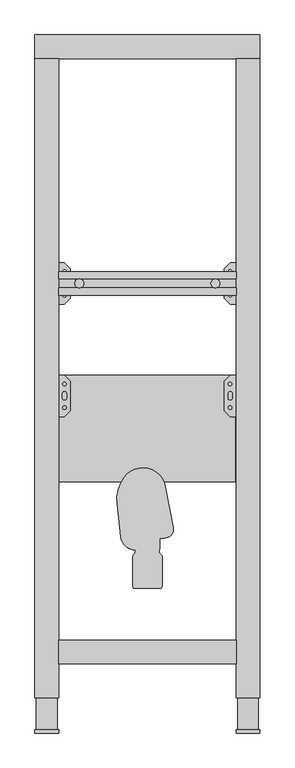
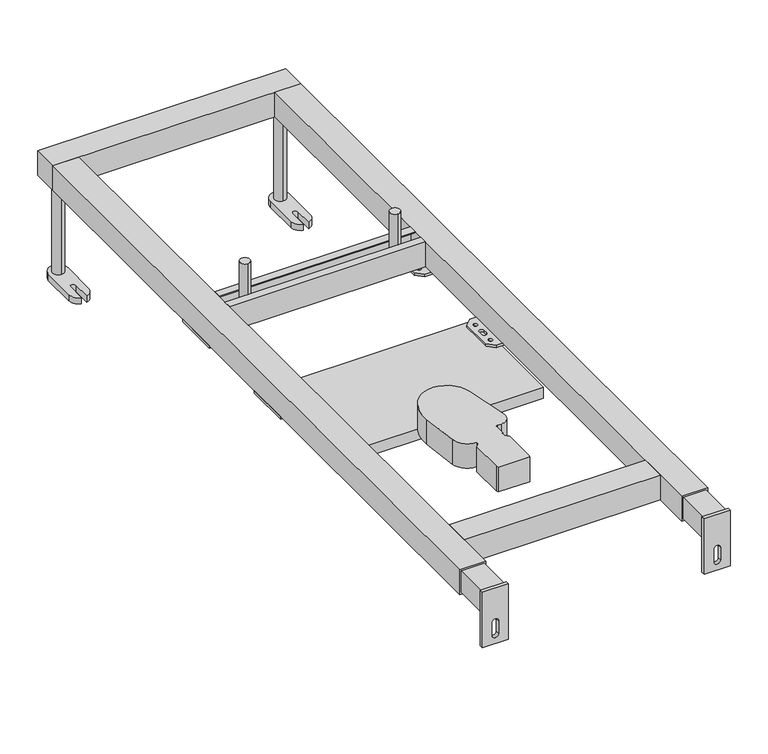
"""IFC4 building model written with IfcOpenShell, lengths in millimetres: sanitary terminal geometry, RSen_74_PF_FB_built-in element washbasin xs with built-in trap_wisa : xs washbasin with built-in trap_wisa_built in element for washbasin."""

from ifc_helpers import new_model, si_unit, point, frame, frame_2d, origin, origin_with_axes, place, context, project, spatial, polyline, circle_curve, trimmed, segment, composite_curve, outline, extrude, source, transform, mapped, element, save
from ifc_brep_helpers import plane_surface, cylinder_surface, revolved_surface, advanced_brep


def sanitary_terminal_46331c99(model_context):
    return source(origin(), model_context, "Body", "SolidModel", [
        advanced_brep(
        [(-51.1204839, 387.8541922, 196.0), (-44.8356818, 331.7119004, 196.0), (-19.9908595, 309.4931249, 196.0), (-19.9908595, 304.9931349, 196.0), (-24.9908666, 299.9931396, 196.0), (-24.9908666, 248.9931257, 196.0), (-23.9190708, 244.9931176, 196.0), (23.9373346, 244.9931176, 196.0), (25.0091304, 248.9931257, 196.0), (25.0091304, 299.9931396, 196.0), (20.009581, 304.9931349, 196.0), (20.009581, 310.2565563, 196.0), (21.0110227, 312.4934048, 196.0), (21.0110227, 327.4931134, 196.0), (23.0118562, 329.4931224, 196.0), (29.0091385, 329.4931224, 196.0), (43.7470321, 347.2849816, 196.0), (30.6975914, 416.3792309, 196.0), (-39.0812703, 432.4355441, 196.0), (-51.1204839, 387.8541922, 156.0), (-39.0812703, 432.4355441, 156.0), (30.6975914, 416.3792309, 156.0), (43.7470321, 347.2849816, 156.0), (29.0091375, 329.4931249, 156.0), (23.0118562, 329.4931224, 156.0), (21.0118537, 327.4931199, 156.0), (21.0110227, 312.4934048, 156.0), (20.009581, 310.2565563, 156.0), (20.009581, 304.9931349, 156.0), (25.0091304, 299.9931396, 156.0), (25.0091304, 248.9931257, 156.0), (23.9373346, 244.9931176, 156.0), (-23.9190708, 244.9931176, 156.0), (-24.9908666, 248.9931257, 156.0), (-24.9908666, 299.9931396, 156.0), (-19.9908595, 304.9931349, 156.0), (-19.9908595, 309.4931249, 156.0), (-44.8356726, 331.711891, 156.0)],
        [
            (0, 1),
            (1, 2, circle_curve(frame((-19.9908595, 334.4931249, 196.0), z_axis=(0.0, 0.0, 1.0), x_axis=(-1.0, 0.0, 0.0)), 25.0)),
            (2, 3),
            (3, 4),
            (4, 5),
            (5, 6),
            (6, 7),
            (7, 8),
            (8, 9),
            (9, 10),
            (10, 11),
            (11, 12, circle_curve(frame((18.012158, 312.4934048, 196.0), z_axis=(0.0, 0.0, 1.0), x_axis=(-1.0, 0.0, 0.0)), 2.9988647)),
            (12, 13),
            (13, 14, circle_curve(frame((23.0118562, 327.4931199, 196.0), z_axis=(0.0, 0.0, -1.0), x_axis=(-1.0, 0.0, 0.0)), 2.0000025)),
            (14, 15),
            (15, 16, circle_curve(frame((29.0091375, 344.4931249, 196.0), z_axis=(0.0, 0.0, 1.0), x_axis=(-1.0, 0.0, 0.0)), 15.0)),
            (16, 17),
            (17, 18, circle_curve(frame((-7.7081879, 409.1257482, 196.0), z_axis=(0.0, 0.0, 1.0), x_axis=(-1.0, 0.0, 0.0)), 39.0847399)),
            (18, 0, circle_curve(frame((11.4884459, 394.8628967, 196.0), z_axis=(0.0, 0.0, 1.0), x_axis=(-1.0, 0.0, 0.0)), 63.0000003)),
            (19, 20, circle_curve(frame((11.4884459, 394.8628967, 156.0), z_axis=(0.0, 0.0, -1.0), x_axis=(-1.0, 0.0, 0.0)), 63.0000003)),
            (20, 21, circle_curve(frame((-7.7081879, 409.1257482, 156.0), z_axis=(0.0, 0.0, -1.0), x_axis=(-1.0, 0.0, 0.0)), 39.0847399)),
            (21, 22),
            (22, 23, circle_curve(frame((29.0091375, 344.4931249, 156.0), z_axis=(0.0, 0.0, -1.0), x_axis=(-1.0, 0.0, 0.0)), 15.0)),
            (23, 24),
            (24, 25, circle_curve(frame((23.0118562, 327.4931199, 156.0), z_axis=(0.0, 0.0, 1.0), x_axis=(-1.0, 0.0, 0.0)), 2.0000025)),
            (25, 26),
            (26, 27, circle_curve(frame((18.012158, 312.4934048, 156.0), z_axis=(0.0, 0.0, -1.0), x_axis=(-1.0, 0.0, 0.0)), 2.9988647)),
            (27, 28),
            (28, 29),
            (29, 30),
            (30, 31),
            (31, 32),
            (32, 33),
            (33, 34),
            (34, 35),
            (35, 36),
            (36, 37, circle_curve(frame((-19.9908595, 334.4931249, 156.0), z_axis=(0.0, 0.0, -1.0), x_axis=(-1.0, 0.0, 0.0)), 25.0)),
            (37, 19),
            (0, 19),
            (37, 1),
            (36, 2),
            (35, 3),
            (34, 4),
            (33, 5),
            (32, 6),
            (31, 7),
            (30, 8),
            (29, 9),
            (28, 10),
            (27, 11),
            (26, 12),
            (25, 13),
            (24, 14),
            (23, 15),
            (22, 16),
            (21, 17),
            (20, 18),
        ],
        [
            plane_surface(frame((-51.1204839, 387.8541922, 196.0), z_axis=(0.0, 0.0, 1.0), x_axis=(0.11124927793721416, -0.9937925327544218, 0.0))),
            plane_surface(frame((-51.1204839, 387.8541922, 156.0), z_axis=(0.0, 0.0, -1.0), x_axis=(-0.11124927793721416, 0.9937925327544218, 0.0))),
            plane_surface(frame((-51.1204839, 387.8541922, 196.0), z_axis=(-0.9937925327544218, -0.11124927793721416, 0.0), x_axis=(0.0, 0.0, -1.0))),
            cylinder_surface(frame((-19.9908595, 334.4931249, 156.0), z_axis=(0.0, 0.0, 1.0), x_axis=(-1.0, 0.0, 0.0)), 25.0),
            plane_surface(frame((-19.9908595, 309.4931249, 196.0), z_axis=(-1.0, 0.0, 0.0), x_axis=(0.0, 0.0, -1.0))),
            plane_surface(frame((-19.9908595, 304.9931349, 196.0), z_axis=(-0.7071059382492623, 0.707107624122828, 0.0), x_axis=(0.0, 0.0, -1.0))),
            plane_surface(frame((-24.9908666, 299.9931396, 196.0), z_axis=(-1.0, 0.0, 0.0), x_axis=(0.0, 0.0, -1.0))),
            plane_surface(frame((-24.9908666, 248.9931257, 196.0), z_axis=(-0.9659260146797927, -0.2588183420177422, 0.0), x_axis=(0.0, 0.0, -1.0))),
            plane_surface(frame((-23.9190708, 244.9931176, 196.0), z_axis=(0.0, -1.0, 0.0), x_axis=(0.0, 0.0, -1.0))),
            plane_surface(frame((23.9373346, 244.9931176, 196.0), z_axis=(0.9659260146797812, -0.2588183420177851, 0.0), x_axis=(0.0, 0.0, -1.0))),
            plane_surface(frame((25.0091304, 248.9931257, 196.0), z_axis=(1.0, 0.0, 0.0), x_axis=(0.0, 0.0, -1.0))),
            plane_surface(frame((25.0091304, 299.9931396, 196.0), z_axis=(0.7071383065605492, 0.7070752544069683, 0.0), x_axis=(0.0, 0.0, -1.0))),
            plane_surface(frame((20.009581, 304.9931349, 196.0), z_axis=(1.0, 0.0, 0.0), x_axis=(0.0, 0.0, -1.0))),
            cylinder_surface(frame((18.012158, 312.4934048, 156.0), z_axis=(0.0, 0.0, 1.0), x_axis=(-1.0, 0.0, 0.0)), 2.9988647),
            plane_surface(frame((21.0110227, 312.4934048, 196.0), z_axis=(1.0, 0.0, 0.0), x_axis=(0.0, 0.0, -1.0))),
            revolved_surface(polyline([(21.0118537, 327.4931199, 156.0), (21.0118537, 327.4931199, 196.0)]), (23.0118562, 327.4931199, 156.0), (0.0, 0.0, -1.0)),
            plane_surface(frame((23.0118562, 329.4931224, 196.0), z_axis=(0.0, -1.0, 0.0), x_axis=(0.0, 0.0, -1.0))),
            cylinder_surface(frame((29.0091375, 344.4931249, 156.0), z_axis=(0.0, 0.0, 1.0), x_axis=(-1.0, 0.0, 0.0)), 15.0),
            plane_surface(frame((43.7470321, 347.2849816, 196.0), z_axis=(0.9826284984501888, 0.18558349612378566, 0.0), x_axis=(0.0, 0.0, -1.0))),
            cylinder_surface(frame((-7.7081879, 409.1257482, 156.0), z_axis=(0.0, 0.0, 1.0), x_axis=(-1.0, 0.0, 0.0)), 39.0847399),
            cylinder_surface(frame((11.4884459, 394.8628967, 156.0), z_axis=(0.0, 0.0, 1.0), x_axis=(-1.0, 0.0, 0.0)), 63.0000003),
        ],
        [
            (0, [[1, 2, 3, 4, 5, 6, 7, 8, 9, 10, 11, 12, 13, 14, 15, 16, 17, 18, 19]]),
            (1, [[20, 21, 22, 23, 24, 25, 26, 27, 28, 29, 30, 31, 32, 33, 34, 35, 36, 37, 38]]),
            (2, [[-1, 39, -38, 40]]),
            (3, [[-2, -40, -37, 41]]),
            (4, [[-3, -41, -36, 42]]),
            (5, [[-4, -42, -35, 43]]),
            (6, [[-5, -43, -34, 44]]),
            (7, [[-6, -44, -33, 45]]),
            (8, [[-7, -45, -32, 46]]),
            (9, [[-8, -46, -31, 47]]),
            (10, [[-9, -47, -30, 48]]),
            (11, [[-10, -48, -29, 49]]),
            (12, [[-11, -49, -28, 50]]),
            (13, [[-12, -50, -27, 51]]),
            (14, [[-13, -51, -26, 52]]),
            (15, [[-14, -52, -25, 53]]),
            (16, [[-15, -53, -24, 54]]),
            (17, [[-16, -54, -23, 55]]),
            (18, [[-17, -55, -22, 56]]),
            (19, [[-18, -56, -21, 57]]),
            (20, [[-19, -57, -20, -39]]),
        ],
    ),
        extrude(outline(polyline([(-149.0, 605.0), (149.0, 605.0), (149.0, 425.0), (-149.0, 425.0), (-149.0, 605.0)])), frame((0.0, 0.0, 138.0), z_axis=(0.0, 0.0, 1.0), x_axis=(1.0, 0.0, 0.0)), (0.0, 0.0, 1.0), 18.0),
        extrude(outline(composite_curve([segment(trimmed(circle_curve(frame_2d((-115.0, 760.0)), 7.5154833), [point((-115.0, 767.5154833))], [point((-115.0, 752.4845167))], False, "CARTESIAN"), True, "CONTINUOUS"), segment(trimmed(circle_curve(frame_2d((-115.0, 760.0)), 7.5154833), [point((-115.0, 752.4845167))], [point((-115.0, 767.5154833))], False, "CARTESIAN"), True, "CONTINUOUS")], self_intersect=False)), frame((0.0, 0.0, 180.0), z_axis=(0.0, 0.0, 1.0), x_axis=(1.0, 0.0, 0.0)), (0.0, 0.0, 1.0), 70.0),
        extrude(outline(composite_curve([segment(trimmed(circle_curve(frame_2d((115.0, 760.0)), 7.5154833), [point((115.0, 767.5154833))], [point((115.0, 752.4845167))], False, "CARTESIAN"), True, "CONTINUOUS"), segment(trimmed(circle_curve(frame_2d((115.0, 760.0)), 7.5154833), [point((115.0, 752.4845167))], [point((115.0, 767.5154833))], False, "CARTESIAN"), True, "CONTINUOUS")], self_intersect=False)), frame((0.0, 0.0, 180.0), z_axis=(0.0, 0.0, 1.0), x_axis=(1.0, 0.0, 0.0)), (0.0, 0.0, 1.0), 70.0),
        extrude(outline(polyline([(740.0, 200.0), (752.4845167, 200.0), (752.4845167, 198.5), (741.5, 198.5), (741.5, 161.5), (778.5, 161.5), (778.5, 198.5), (767.5154833, 198.5), (767.5154833, 200.0), (780.0, 200.0), (780.0, 160.0), (740.0, 160.0), (740.0, 200.0)])), frame((-150.0, 0.0, 0.0), z_axis=(1.0, 0.0, 0.0), x_axis=(0.0, 1.0, 0.0)), (0.0, 0.0, 1.0), 300.0),
        extrude(outline(polyline([(140.0, 725.0), (130.0, 735.0), (130.0, 785.0), (140.0, 795.0), (190.0, 795.0), (190.0, 725.0), (140.0, 725.0)]), holes=[composite_curve([segment(trimmed(circle_curve(frame_2d((175.0, 760.0)), 4.5), [point((175.0, 755.5))], [point((175.0, 764.5))], True, "CARTESIAN"), True, "CONTINUOUS"), segment(trimmed(circle_curve(frame_2d((175.0, 760.0)), 4.5), [point((175.0, 764.5))], [point((175.0, 755.5))], True, "CARTESIAN"), True, "CONTINUOUS")], self_intersect=False), composite_curve([segment(trimmed(circle_curve(frame_2d((175.0, 780.0)), 4.5), [point((175.0, 775.5))], [point((175.0, 784.5))], True, "CARTESIAN"), True, "CONTINUOUS"), segment(trimmed(circle_curve(frame_2d((175.0, 780.0)), 4.5), [point((175.0, 784.5))], [point((175.0, 775.5))], True, "CARTESIAN"), True, "CONTINUOUS")], self_intersect=False), composite_curve([segment(trimmed(circle_curve(frame_2d((175.0, 740.0)), 4.5), [point((175.0, 735.5))], [point((175.0, 744.5))], True, "CARTESIAN"), True, "CONTINUOUS"), segment(trimmed(circle_curve(frame_2d((175.0, 740.0)), 4.5), [point((175.0, 744.5))], [point((175.0, 735.5))], True, "CARTESIAN"), True, "CONTINUOUS")], self_intersect=False), composite_curve([segment(trimmed(circle_curve(frame_2d((140.0, 780.0)), 2.9795218), [point((140.0, 777.0204782))], [point((140.0, 782.9795218))], True, "CARTESIAN"), True, "CONTINUOUS"), segment(trimmed(circle_curve(frame_2d((140.0, 780.0)), 2.9795218), [point((140.0, 782.9795218))], [point((140.0, 777.0204782))], True, "CARTESIAN"), True, "CONTINUOUS")], self_intersect=False), composite_curve([segment(trimmed(circle_curve(frame_2d((140.0, 740.0)), 2.9795218), [point((140.0, 737.0204782))], [point((140.0, 742.9795218))], True, "CARTESIAN"), True, "CONTINUOUS"), segment(trimmed(circle_curve(frame_2d((140.0, 740.0)), 2.9795218), [point((140.0, 742.9795218))], [point((140.0, 737.0204782))], True, "CARTESIAN"), True, "CONTINUOUS")], self_intersect=False), composite_curve([segment(trimmed(circle_curve(frame_2d((140.0, 763.5)), 3.5), [point((143.5, 763.5))], [point((136.5, 763.5))], True, "CARTESIAN"), True, "CONTINUOUS"), segment(polyline([(136.5, 763.5), (136.5, 756.5)]), True, "CONTINUOUS"), segment(trimmed(circle_curve(frame_2d((140.0, 756.5)), 3.5), [point((136.5, 756.5))], [point((143.5, 756.5))], True, "CARTESIAN"), True, "CONTINUOUS"), segment(polyline([(143.5, 756.5), (143.5, 763.5)]), True, "CONTINUOUS")], self_intersect=False)]), frame((0.0, 0.0, 156.0), z_axis=(0.0, 0.0, 1.0), x_axis=(1.0, 0.0, 0.0)), (0.0, 0.0, 1.0), 4.0),
        extrude(outline(polyline([(-140.0, 725.0), (-190.0, 725.0), (-190.0, 795.0), (-140.0, 795.0), (-130.0, 785.0), (-130.0, 735.0), (-140.0, 725.0)]), holes=[composite_curve([segment(trimmed(circle_curve(frame_2d((-175.0, 760.0)), 4.5), [point((-175.0, 755.5))], [point((-175.0, 764.5))], True, "CARTESIAN"), True, "CONTINUOUS"), segment(trimmed(circle_curve(frame_2d((-175.0, 760.0)), 4.5), [point((-175.0, 764.5))], [point((-175.0, 755.5))], True, "CARTESIAN"), True, "CONTINUOUS")], self_intersect=False), composite_curve([segment(trimmed(circle_curve(frame_2d((-175.0, 780.0)), 4.5), [point((-175.0, 775.5))], [point((-175.0, 784.5))], True, "CARTESIAN"), True, "CONTINUOUS"), segment(trimmed(circle_curve(frame_2d((-175.0, 780.0)), 4.5), [point((-175.0, 784.5))], [point((-175.0, 775.5))], True, "CARTESIAN"), True, "CONTINUOUS")], self_intersect=False), composite_curve([segment(trimmed(circle_curve(frame_2d((-175.0, 740.0)), 4.5), [point((-175.0, 735.5))], [point((-175.0, 744.5))], True, "CARTESIAN"), True, "CONTINUOUS"), segment(trimmed(circle_curve(frame_2d((-175.0, 740.0)), 4.5), [point((-175.0, 744.5))], [point((-175.0, 735.5))], True, "CARTESIAN"), True, "CONTINUOUS")], self_intersect=False), composite_curve([segment(trimmed(circle_curve(frame_2d((-140.0, 780.0)), 2.9795218), [point((-140.0, 777.0204782))], [point((-140.0, 782.9795218))], True, "CARTESIAN"), True, "CONTINUOUS"), segment(trimmed(circle_curve(frame_2d((-140.0, 780.0)), 2.9795218), [point((-140.0, 782.9795218))], [point((-140.0, 777.0204782))], True, "CARTESIAN"), True, "CONTINUOUS")], self_intersect=False), composite_curve([segment(trimmed(circle_curve(frame_2d((-140.0, 740.0)), 2.9795218), [point((-140.0, 737.0204782))], [point((-140.0, 742.9795218))], True, "CARTESIAN"), True, "CONTINUOUS"), segment(trimmed(circle_curve(frame_2d((-140.0, 740.0)), 2.9795218), [point((-140.0, 742.9795218))], [point((-140.0, 737.0204782))], True, "CARTESIAN"), True, "CONTINUOUS")], self_intersect=False), composite_curve([segment(polyline([(-143.5, 763.5), (-143.5, 756.5)]), True, "CONTINUOUS"), segment(trimmed(circle_curve(frame_2d((-140.0, 756.5)), 3.5), [point((-143.5, 756.5))], [point((-136.5, 756.5))], True, "CARTESIAN"), True, "CONTINUOUS"), segment(polyline([(-136.5, 756.5), (-136.5, 763.5)]), True, "CONTINUOUS"), segment(trimmed(circle_curve(frame_2d((-140.0, 763.5)), 3.5), [point((-136.5, 763.5))], [point((-143.5, 763.5))], True, "CARTESIAN"), True, "CONTINUOUS")], self_intersect=False)]), frame((0.0, 0.0, 156.0), z_axis=(0.0, 0.0, 1.0), x_axis=(1.0, 0.0, 0.0)), (0.0, 0.0, 1.0), 4.0),
        extrude(outline(polyline([(140.0, 535.0), (130.0, 545.0), (130.0, 595.0), (140.0, 605.0), (190.0, 605.0), (190.0, 535.0), (140.0, 535.0)]), holes=[composite_curve([segment(trimmed(circle_curve(frame_2d((175.0, 570.0)), 4.5), [point((175.0, 565.5))], [point((175.0, 574.5))], True, "CARTESIAN"), True, "CONTINUOUS"), segment(trimmed(circle_curve(frame_2d((175.0, 570.0)), 4.5), [point((175.0, 574.5))], [point((175.0, 565.5))], True, "CARTESIAN"), True, "CONTINUOUS")], self_intersect=False), composite_curve([segment(trimmed(circle_curve(frame_2d((175.0, 590.0)), 4.5), [point((175.0, 585.5))], [point((175.0, 594.5))], True, "CARTESIAN"), True, "CONTINUOUS"), segment(trimmed(circle_curve(frame_2d((175.0, 590.0)), 4.5), [point((175.0, 594.5))], [point((175.0, 585.5))], True, "CARTESIAN"), True, "CONTINUOUS")], self_intersect=False), composite_curve([segment(trimmed(circle_curve(frame_2d((175.0, 550.0)), 4.5), [point((175.0, 545.5))], [point((175.0, 554.5))], True, "CARTESIAN"), True, "CONTINUOUS"), segment(trimmed(circle_curve(frame_2d((175.0, 550.0)), 4.5), [point((175.0, 554.5))], [point((175.0, 545.5))], True, "CARTESIAN"), True, "CONTINUOUS")], self_intersect=False), composite_curve([segment(trimmed(circle_curve(frame_2d((140.0, 590.0)), 2.9795218), [point((140.0, 587.0204782))], [point((140.0, 592.9795218))], True, "CARTESIAN"), True, "CONTINUOUS"), segment(trimmed(circle_curve(frame_2d((140.0, 590.0)), 2.9795218), [point((140.0, 592.9795218))], [point((140.0, 587.0204782))], True, "CARTESIAN"), True, "CONTINUOUS")], self_intersect=False), composite_curve([segment(trimmed(circle_curve(frame_2d((140.0, 550.0)), 2.9795218), [point((140.0, 547.0204782))], [point((140.0, 552.9795218))], True, "CARTESIAN"), True, "CONTINUOUS"), segment(trimmed(circle_curve(frame_2d((140.0, 550.0)), 2.9795218), [point((140.0, 552.9795218))], [point((140.0, 547.0204782))], True, "CARTESIAN"), True, "CONTINUOUS")], self_intersect=False), composite_curve([segment(trimmed(circle_curve(frame_2d((140.0, 573.5)), 3.5), [point((143.5, 573.5))], [point((136.5, 573.5))], True, "CARTESIAN"), True, "CONTINUOUS"), segment(polyline([(136.5, 573.5), (136.5, 566.5)]), True, "CONTINUOUS"), segment(trimmed(circle_curve(frame_2d((140.0, 566.5)), 3.5), [point((136.5, 566.5))], [point((143.5, 566.5))], True, "CARTESIAN"), True, "CONTINUOUS"), segment(polyline([(143.5, 566.5), (143.5, 573.5)]), True, "CONTINUOUS")], self_intersect=False)]), frame((0.0, 0.0, 156.0), z_axis=(0.0, 0.0, 1.0), x_axis=(1.0, 0.0, 0.0)), (0.0, 0.0, 1.0), 4.0),
        extrude(outline(polyline([(-140.0, 535.0), (-190.0, 535.0), (-190.0, 605.0), (-140.0, 605.0), (-130.0, 595.0), (-130.0, 545.0), (-140.0, 535.0)]), holes=[composite_curve([segment(trimmed(circle_curve(frame_2d((-175.0, 570.0)), 4.5), [point((-175.0, 565.5))], [point((-175.0, 574.5))], True, "CARTESIAN"), True, "CONTINUOUS"), segment(trimmed(circle_curve(frame_2d((-175.0, 570.0)), 4.5), [point((-175.0, 574.5))], [point((-175.0, 565.5))], True, "CARTESIAN"), True, "CONTINUOUS")], self_intersect=False), composite_curve([segment(trimmed(circle_curve(frame_2d((-175.0, 590.0)), 4.5), [point((-175.0, 585.5))], [point((-175.0, 594.5))], True, "CARTESIAN"), True, "CONTINUOUS"), segment(trimmed(circle_curve(frame_2d((-175.0, 590.0)), 4.5), [point((-175.0, 594.5))], [point((-175.0, 585.5))], True, "CARTESIAN"), True, "CONTINUOUS")], self_intersect=False), composite_curve([segment(trimmed(circle_curve(frame_2d((-175.0, 550.0)), 4.5), [point((-175.0, 545.5))], [point((-175.0, 554.5))], True, "CARTESIAN"), True, "CONTINUOUS"), segment(trimmed(circle_curve(frame_2d((-175.0, 550.0)), 4.5), [point((-175.0, 554.5))], [point((-175.0, 545.5))], True, "CARTESIAN"), True, "CONTINUOUS")], self_intersect=False), composite_curve([segment(trimmed(circle_curve(frame_2d((-140.0, 590.0)), 2.9795218), [point((-140.0, 587.0204782))], [point((-140.0, 592.9795218))], True, "CARTESIAN"), True, "CONTINUOUS"), segment(trimmed(circle_curve(frame_2d((-140.0, 590.0)), 2.9795218), [point((-140.0, 592.9795218))], [point((-140.0, 587.0204782))], True, "CARTESIAN"), True, "CONTINUOUS")], self_intersect=False), composite_curve([segment(trimmed(circle_curve(frame_2d((-140.0, 550.0)), 2.9795218), [point((-140.0, 547.0204782))], [point((-140.0, 552.9795218))], True, "CARTESIAN"), True, "CONTINUOUS"), segment(trimmed(circle_curve(frame_2d((-140.0, 550.0)), 2.9795218), [point((-140.0, 552.9795218))], [point((-140.0, 547.0204782))], True, "CARTESIAN"), True, "CONTINUOUS")], self_intersect=False), composite_curve([segment(polyline([(-143.5, 573.5), (-143.5, 566.5)]), True, "CONTINUOUS"), segment(trimmed(circle_curve(frame_2d((-140.0, 566.5)), 3.5), [point((-143.5, 566.5))], [point((-136.5, 566.5))], True, "CARTESIAN"), True, "CONTINUOUS"), segment(polyline([(-136.5, 566.5), (-136.5, 573.5)]), True, "CONTINUOUS"), segment(trimmed(circle_curve(frame_2d((-140.0, 573.5)), 3.5), [point((-136.5, 573.5))], [point((-143.5, 573.5))], True, "CARTESIAN"), True, "CONTINUOUS")], self_intersect=False)]), frame((0.0, 0.0, 156.0), z_axis=(0.0, 0.0, 1.0), x_axis=(1.0, 0.0, 0.0)), (0.0, 0.0, 1.0), 4.0),
        extrude(outline(composite_curve([segment(trimmed(circle_curve(frame_2d((-170.0, 1160.0)), 8.75), [point((-170.0, 1151.25))], [point((-170.0, 1168.75))], False, "CARTESIAN"), True, "CONTINUOUS"), segment(trimmed(circle_curve(frame_2d((-170.0, 1160.0)), 8.75), [point((-170.0, 1168.75))], [point((-170.0, 1151.25))], False, "CARTESIAN"), True, "CONTINUOUS")], self_intersect=False)), frame((0.0, 0.0, 10.0), z_axis=(0.0, 0.0, 1.0), x_axis=(1.0, 0.0, 0.0)), (0.0, 0.0, 1.0), 150.0),
        extrude(outline(composite_curve([segment(trimmed(circle_curve(frame_2d((170.0, 1160.0)), 8.75), [point((170.0, 1151.25))], [point((170.0, 1168.75))], False, "CARTESIAN"), True, "CONTINUOUS"), segment(trimmed(circle_curve(frame_2d((170.0, 1160.0)), 8.75), [point((170.0, 1168.75))], [point((170.0, 1151.25))], False, "CARTESIAN"), True, "CONTINUOUS")], self_intersect=False)), frame((0.0, 0.0, 10.0), z_axis=(0.0, 0.0, 1.0), x_axis=(1.0, 0.0, 0.0)), (0.0, 0.0, 1.0), 150.0),
        extrude(outline(composite_curve([segment(trimmed(circle_curve(frame_2d((-170.0, 1160.0)), 15.0), [point((-185.0, 1160.0))], [point((-155.0, 1160.0))], False, "CARTESIAN"), True, "CONTINUOUS"), segment(polyline([(-155.0, 1160.0), (-155.0, 1106.0)]), True, "CONTINUOUS"), segment(trimmed(circle_curve(frame_2d((-170.0, 1106.0)), 15.0), [point((-155.0, 1106.0))], [point((-166.0, 1091.5431677))], False, "CARTESIAN"), True, "CONTINUOUS"), segment(polyline([(-166.0, 1091.5431677), (-166.0, 1120.4568323)]), True, "CONTINUOUS"), segment(trimmed(circle_curve(frame_2d((-170.0, 1120.4568323)), 4.0), [point((-166.0, 1120.4568323))], [point((-174.0, 1120.4568323))], True, "CARTESIAN"), True, "CONTINUOUS"), segment(polyline([(-174.0, 1120.4568323), (-174.0, 1091.5431677)]), True, "CONTINUOUS"), segment(trimmed(circle_curve(frame_2d((-170.0, 1106.0)), 15.0), [point((-174.0, 1091.5431677))], [point((-185.0, 1106.0))], False, "CARTESIAN"), True, "CONTINUOUS"), segment(polyline([(-185.0, 1106.0), (-185.0, 1160.0)]), True, "CONTINUOUS")], self_intersect=False)), origin_with_axes(), (0.0, 0.0, 1.0), 10.0),
        extrude(outline(composite_curve([segment(polyline([(185.0, 1160.0), (185.0, 1106.0)]), True, "CONTINUOUS"), segment(trimmed(circle_curve(frame_2d((170.0, 1106.0)), 15.0), [point((185.0, 1106.0))], [point((174.0, 1091.5431677))], False, "CARTESIAN"), True, "CONTINUOUS"), segment(polyline([(174.0, 1091.5431677), (174.0, 1120.4568323)]), True, "CONTINUOUS"), segment(trimmed(circle_curve(frame_2d((170.0, 1120.4568323)), 4.0), [point((174.0, 1120.4568323))], [point((166.0, 1120.4568323))], True, "CARTESIAN"), True, "CONTINUOUS"), segment(polyline([(166.0, 1120.4568323), (166.0, 1091.5431677)]), True, "CONTINUOUS"), segment(trimmed(circle_curve(frame_2d((170.0, 1106.0)), 15.0), [point((166.0, 1091.5431677))], [point((155.0, 1106.0))], False, "CARTESIAN"), True, "CONTINUOUS"), segment(polyline([(155.0, 1106.0), (155.0, 1160.0)]), True, "CONTINUOUS"), segment(trimmed(circle_curve(frame_2d((170.0, 1160.0)), 15.0), [point((155.0, 1160.0))], [point((185.0, 1160.0))], False, "CARTESIAN"), True, "CONTINUOUS")], self_intersect=False)), origin_with_axes(), (0.0, 0.0, 1.0), 10.0),
        extrude(outline(polyline([(-187.5, 549.0), (-152.5, 549.0), (-152.5, 6.0), (-187.5, 6.0), (-187.5, 549.0)])), frame((0.0, 0.0, 162.5), z_axis=(0.0, 0.0, 1.0), x_axis=(1.0, 0.0, 0.0)), (0.0, 0.0, 1.0), 35.0),
        extrude(outline(polyline([(152.4841074, 549.0), (187.4841074, 549.0), (187.4841074, 6.0), (152.4841074, 6.0), (152.4841074, 549.0)])), frame((0.0, 0.0, 162.5), z_axis=(0.0, 0.0, 1.0), x_axis=(1.0, 0.0, 0.0)), (0.0, 0.0, 1.0), 35.0),
        extrude(outline(polyline([(200.0, 190.0), (200.0, 150.0), (110.0, 150.0), (110.0, 190.0), (200.0, 190.0)]), holes=[composite_curve([segment(trimmed(circle_curve(frame_2d((145.0, 170.0)), 5.0), [point((145.0, 165.0))], [point((145.0, 175.0))], True, "CARTESIAN"), True, "CONTINUOUS"), segment(polyline([(145.0, 175.0), (125.0, 175.0)]), True, "CONTINUOUS"), segment(trimmed(circle_curve(frame_2d((125.0, 170.0)), 5.0), [point((125.0, 175.0))], [point((125.0, 165.0))], True, "CARTESIAN"), True, "CONTINUOUS"), segment(polyline([(125.0, 165.0), (145.0, 165.0)]), True, "CONTINUOUS")], self_intersect=False)]), frame((0.0, 0.0, 0.0), z_axis=(0.0, 1.0, 0.0), x_axis=(0.0, 0.0, 1.0)), (0.0, 0.0, 1.0), 6.0),
        extrude(outline(polyline([(200.0, -150.0), (200.0, -190.0), (110.0, -190.0), (110.0, -150.0), (200.0, -150.0)]), holes=[composite_curve([segment(trimmed(circle_curve(frame_2d((145.0, -170.0)), 5.0), [point((145.0, -175.0))], [point((145.0, -165.0))], True, "CARTESIAN"), True, "CONTINUOUS"), segment(polyline([(145.0, -165.0), (125.0, -165.0)]), True, "CONTINUOUS"), segment(trimmed(circle_curve(frame_2d((125.0, -170.0)), 5.0), [point((125.0, -165.0))], [point((125.0, -175.0))], True, "CARTESIAN"), True, "CONTINUOUS"), segment(polyline([(125.0, -175.0), (145.0, -175.0)]), True, "CONTINUOUS")], self_intersect=False)]), frame((0.0, 0.0, 0.0), z_axis=(0.0, 1.0, 0.0), x_axis=(0.0, 0.0, 1.0)), (0.0, 0.0, 1.0), 6.0),
        extrude(outline(polyline([(150.0, 157.0), (150.0, 117.0), (-150.0, 117.0), (-150.0, 157.0), (150.0, 157.0)])), frame((0.0, 0.0, 160.0), z_axis=(0.0, 0.0, 1.0), x_axis=(1.0, 0.0, 0.0)), (0.0, 0.0, 1.0), 40.0),
        extrude(outline(polyline([(-150.0, 60.0), (-190.0, 60.0), (-190.0, 1140.0), (-150.0, 1140.0), (-150.0, 60.0)])), frame((0.0, 0.0, 160.0), z_axis=(0.0, 0.0, 1.0), x_axis=(1.0, 0.0, 0.0)), (0.0, 0.0, 1.0), 40.0),
        extrude(outline(polyline([(190.0, 60.0), (150.0, 60.0), (150.0, 1140.0), (190.0, 1140.0), (190.0, 60.0)])), frame((0.0, 0.0, 160.0), z_axis=(0.0, 0.0, 1.0), x_axis=(1.0, 0.0, 0.0)), (0.0, 0.0, 1.0), 40.0),
        extrude(outline(polyline([(190.0, 1180.0), (190.0, 1140.0), (-190.0, 1140.0), (-190.0, 1180.0), (190.0, 1180.0)])), frame((0.0, 0.0, 160.0), z_axis=(0.0, 0.0, 1.0), x_axis=(1.0, 0.0, 0.0)), (0.0, 0.0, 1.0), 40.0),
    ])


if __name__ == "__main__":
    model = new_model("IFC4")
    model_context = context("Model", 3, world=origin())
    ifc_project = project(units=[si_unit("LENGTHUNIT", "METRE", prefix="MILLI")], contexts=[model_context])
    site = spatial("IfcSite", under=ifc_project)
    building = spatial("IfcBuilding", under=site)
    placement = place(None, origin())
    sanitary_terminal_shape = sanitary_terminal_46331c99(model_context)
    element("IfcSanitaryTerminal", 1, ObjectType="RSen_74_PF_FB_built-in element washbasin xs with built-in trap_wisa : xs washbasin with built-in trap_wisa_built in element for washbasin", at=placement, inside=building, context=model_context, shape_type="MappedRepresentation", body=[
        mapped(sanitary_terminal_shape, transform((0.0, 0.0, 0.0), x_axis=(1.0, 0.0, 0.0), y_axis=(0.0, 1.0, 0.0), z_axis=(0.0, 0.0, 1.0))),
    ])
    save(model, "model.ifc")
